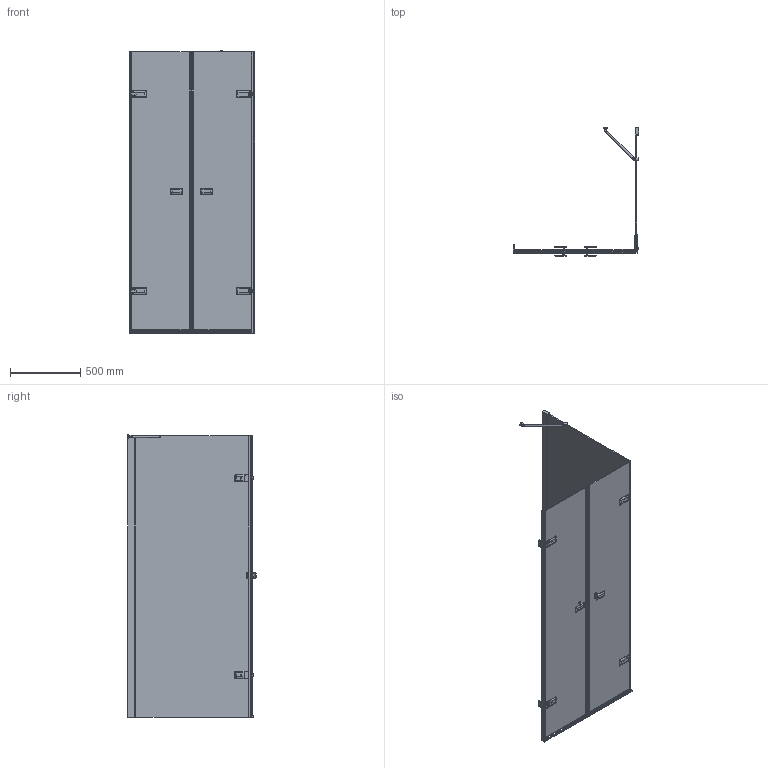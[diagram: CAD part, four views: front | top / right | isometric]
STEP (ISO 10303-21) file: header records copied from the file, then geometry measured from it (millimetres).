
FILE_DESCRIPTION(/* description */ (''),/* implementation_level */ '2;1');
FILE_NAME(/* name */ 'E:\Работа\Сергей\Душевые кабинки\! Работа\!!!\TRAND SQUARE GK-863KPTWO\TRAND SQUARE GK-863KPTWO левая модель\TRAND SQUARE GK-863KPTWO ЛЕВАЯ-3D.stp',/* time_stamp */ '2017-10-30T19:52:17+03:00',/* author */ ('PC'),/* organization */ (''),/* preprocessor_version */ 'ST-DEVELOPER v15.2',/* originating_system */ 'Autodesk Inventor 2014',/* authorisation */ '');
FILE_SCHEMA (('AUTOMOTIVE_DESIGN { 1 0 10303 214 3 1 1 }'));
Products named in the file (1): TRAND SQUARE GK-863KPTWO ЛЕВАЯ-
3D
Bounding box: 892.8 x 912.74 x 2009.49 mm (x, y, z)
Volume: 27107216.1 mm3; surface area: 7762487.4 mm2
Topology: 10 solids, 16 shells, 1929 faces, 5250 edges, 3462 vertices
Faces by surface type: plane 1119, cylinder 521, bspline 190, torus 47, cone 38, sphere 14
Full cylindrical faces by diameter (mm): 4.134 x8, 5.2 x4, 6 x4, 9 x8, 11 x4, 12 x2, 13 x6, 15 x1, 16 x6, 20 x2, 26 x1
Entity records: 79261 total; most frequent: CARTESIAN_POINT 30096, ORIENTED_EDGE 9818, DIRECTION 9645, EDGE_CURVE 4905, LINE 3243, VECTOR 3243, AXIS2_PLACEMENT_3D 3201, VERTEX_POINT 3110
